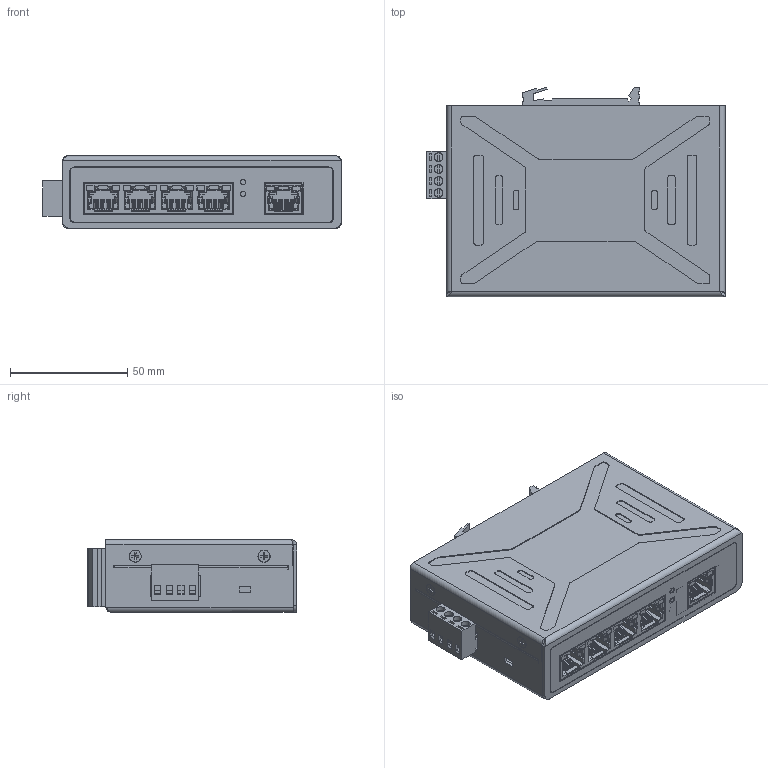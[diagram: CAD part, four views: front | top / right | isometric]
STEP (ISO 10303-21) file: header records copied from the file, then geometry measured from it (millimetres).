
FILE_DESCRIPTION((''),'2;1');
FILE_NAME('TXI173','2025-04-10T09:10:10',('NINGMEI'),(''),'CREO PARAMETRIC BY PTC INC, 2023154','CREO PARAMETRIC BY PTC INC, 2023154','');
FILE_SCHEMA(('AUTOMOTIVE_DESIGN { 1 0 10303 214 1 1 1 1 }'));
Products named in the file (1): TXI173
Bounding box: 127.4 x 89.5 x 31 mm (x, y, z)
Volume: 59907.4 mm3; surface area: 84545 mm2
Topology: 32 solids, 51 shells, 4049 faces, 11442 edges, 7145 vertices
Faces by surface type: plane 2783, cylinder 968, bspline 248, cone 28, torus 22
Entity records: 136966 total; most frequent: CARTESIAN_POINT 30542, ORIENTED_EDGE 22404, DIRECTION 20795, EDGE_CURVE 11202, VECTOR 8695, LINE 8695, VERTEX_POINT 7145, AXIS2_PLACEMENT_3D 6050
